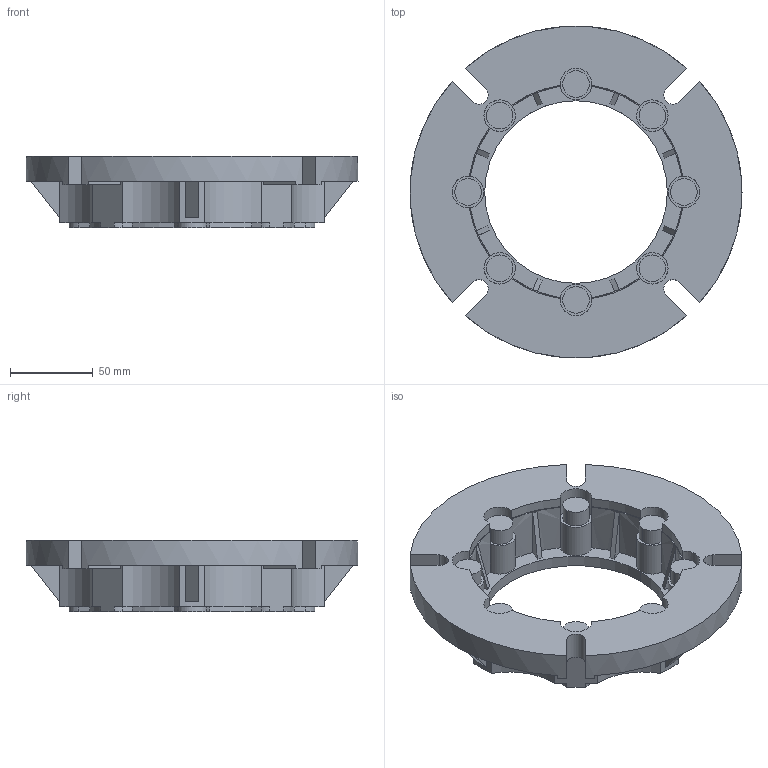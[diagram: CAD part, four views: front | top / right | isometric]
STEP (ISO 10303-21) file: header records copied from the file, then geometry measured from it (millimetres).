
FILE_DESCRIPTION(/* description */ (''),/* implementation_level */ '2;1');
FILE_NAME(/* name */ '3_FLANGIA (CAMPANA) LATERALE FC NMRV-P090',/* time_stamp */ '2025-10-09T15:24:27+02:00',/* author */ (''),/* organization */ (''),/* preprocessor_version */ 'ST-DEVELOPER v19.2',/* originating_system */ 'Rhino 8.23',/* authorisation */ '');
FILE_SCHEMA (('CONFIG_CONTROL_DESIGN'));
Length unit declared in the file: millimetre
Products named in the file (2): Document; FU 90FC-p
Bounding box: 200 x 200 x 43 mm (x, y, z)
Volume: 400858.1 mm3; surface area: 95234.4 mm2
Topology: 1 solids, 1 shells, 201 faces, 554 edges, 364 vertices
Faces by surface type: plane 103, cylinder 90, bspline 8
Entity records: 8590 total; most frequent: CARTESIAN_POINT 2089, ORIENTED_EDGE 1108, DIRECTION 665, EDGE_CURVE 554, AXIS2_PLACEMENT_3D 429, VERTEX_POINT 364, B_SPLINE_CURVE_WITH_KNOTS 318, TRIMMED_CURVE 232
